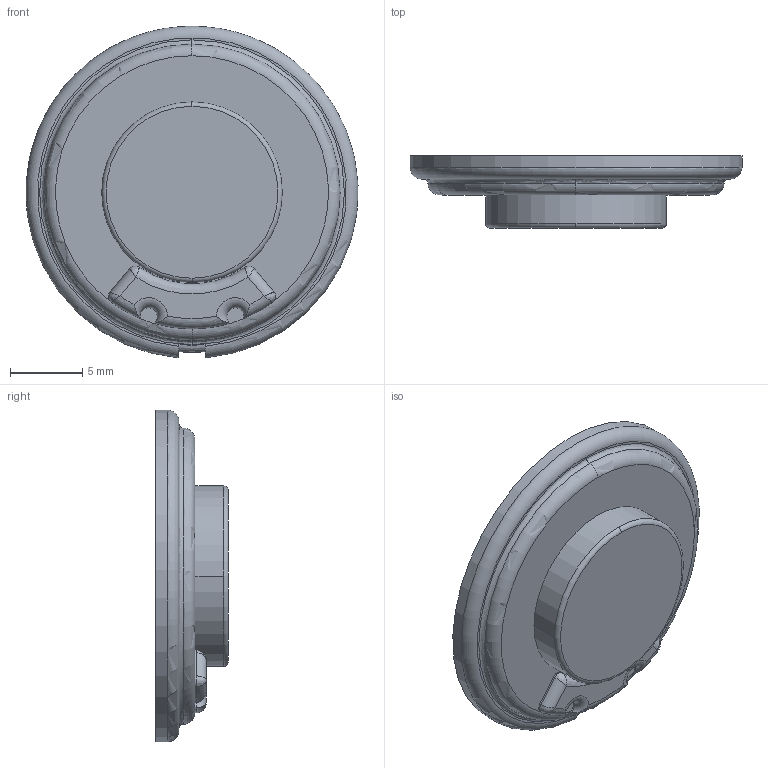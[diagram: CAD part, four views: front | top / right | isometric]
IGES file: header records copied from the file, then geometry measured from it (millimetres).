
Global section: file name: No Iges File Name specified; native system: Autodesk Inventor 2011; preprocessor: AutoDesk Inventor Iges Exporter R2011; author: CAD; date: 20150422.140231; units: millimetre
Bounding box: 22.98 x 5 x 22.96 mm (x, y, z)
Volume: 1042.5 mm3; surface area: 1204.4 mm2
Topology: 1 solids, 1 shells, 170 faces, 412 edges, 259 vertices
Faces by surface type: plane 71, revolution 43, cylinder 32, torus 13, bspline 10, sphere 1
